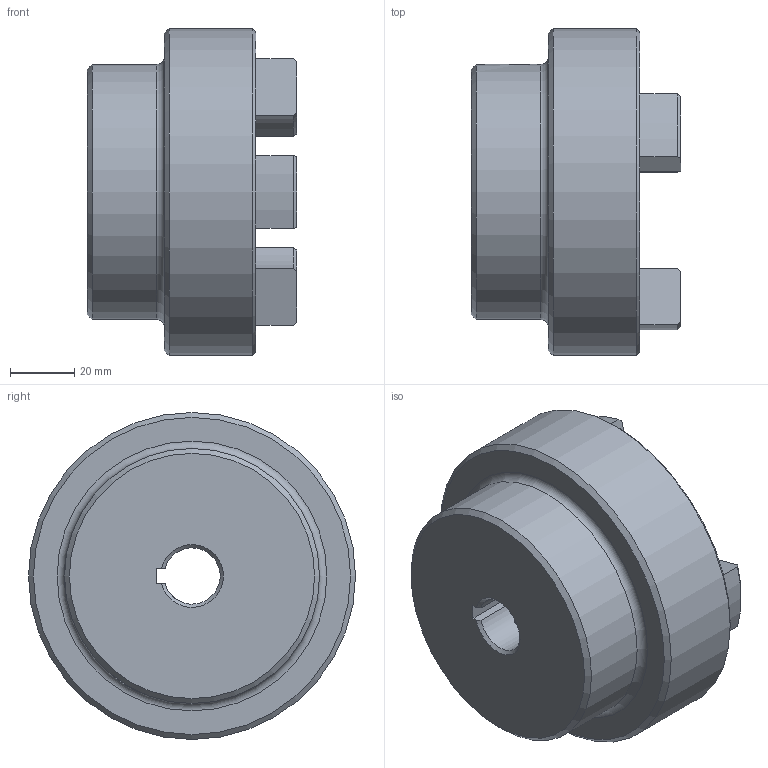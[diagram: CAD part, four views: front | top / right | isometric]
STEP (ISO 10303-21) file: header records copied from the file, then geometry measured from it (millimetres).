
FILE_DESCRIPTION (( 'STEP AP203' ), '1' );
FILE_NAME ('RC4.step', '2024-07-24T17:32:17', ( 'Adlan' ), ( '' ), 'SwSTEP 2.0', 'SolidWorks 2013', '' );
FILE_SCHEMA (( 'CONFIG_CONTROL_DESIGN' ));
Length unit declared in the file: inch
Products named in the file (1): RC4
Bounding box: 65.02 x 101.6 x 101.6 mm (x, y, z)
Volume: 270157 mm3; surface area: 40890.9 mm2
Topology: 1 solids, 1 shells, 70 faces, 180 edges, 113 vertices
Faces by surface type: cylinder 26, plane 19, torus 13, cone 12
Full cylindrical faces by diameter (mm): 5.105 x2, 79.248 x1, 101.6 x1
Entity records: 2367 total; most frequent: CARTESIAN_POINT 603, DIRECTION 370, ORIENTED_EDGE 332, EDGE_CURVE 166, AXIS2_PLACEMENT_3D 146, VERTEX_POINT 109, EDGE_LOOP 87, LINE 78
